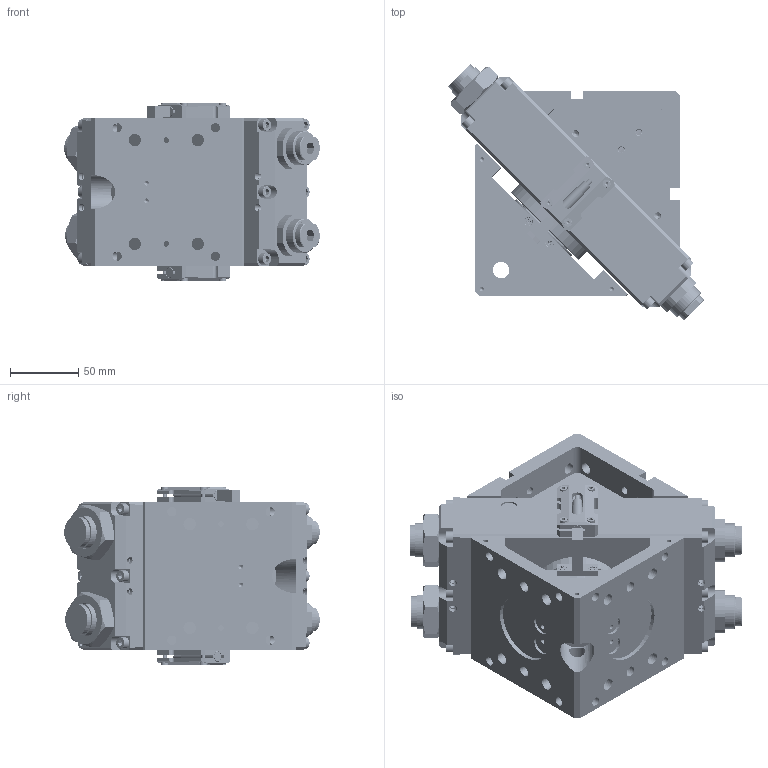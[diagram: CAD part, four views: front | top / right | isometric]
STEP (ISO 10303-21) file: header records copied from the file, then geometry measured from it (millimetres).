
FILE_DESCRIPTION (( 'STEP AP214' ), '1' );
FILE_NAME ('PAS40E.STEP', '2016-01-05T04:26:49', ( 'Registered User' ), ( 'Microsoft Corporation' ), 'SwSTEP 2.0', 'SolidWorks 2015', '' );
FILE_SCHEMA (( 'AUTOMOTIVE_DESIGN' ));
Length unit declared in the file: millimetre
Products named in the file (2): PAS40E
Bounding box: 187.11 x 187.11 x 130 mm (x, y, z)
Volume: 1812979.9 mm3; surface area: 508276.5 mm2
Topology: 95 solids, 95 shells, 3554 faces, 9252 edges, 5653 vertices
Faces by surface type: cylinder 1231, plane 1073, torus 635, cone 517, sphere 98
Entity records: 152491 total; most frequent: CARTESIAN_POINT 26859, DIRECTION 18609, ORIENTED_EDGE 17642, EDGE_CURVE 8821, AXIS2_PLACEMENT_3D 7633, VERTEX_POINT 5506, CIRCLE 4077, EDGE_LOOP 4043
